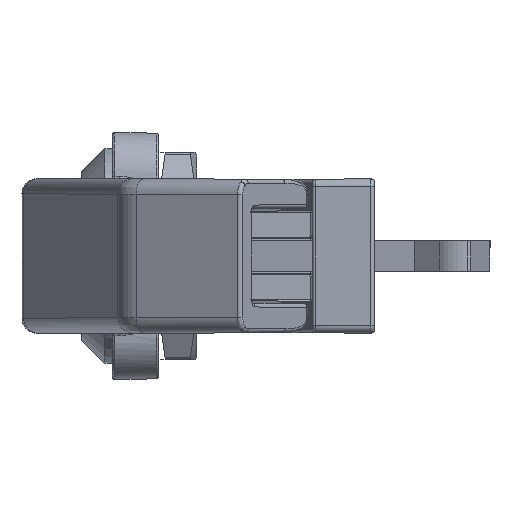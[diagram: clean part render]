
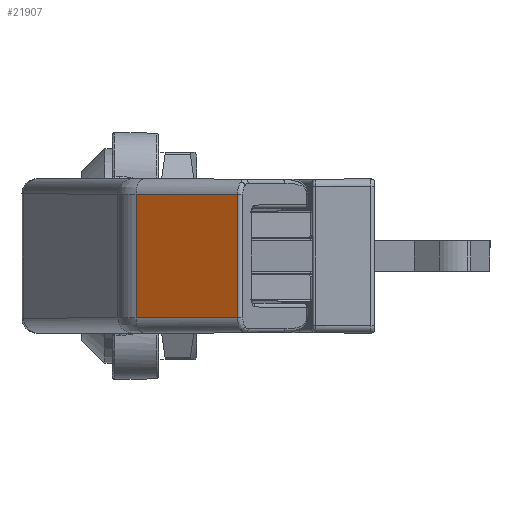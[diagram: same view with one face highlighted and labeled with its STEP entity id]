
A CAD part, left-side view. The second image highlights one B-rep face of the part: STEP entity #21907.
In plain terms, the highlighted planar face has unit normal (-0.862, 0.508, 0).
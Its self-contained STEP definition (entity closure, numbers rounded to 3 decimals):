
#340 = ORIENTED_EDGE ( 'NONE', *, *, #24650, .T. ) ;
#609 = AXIS2_PLACEMENT_3D ( 'NONE', #17525, #3361, #29434 ) ;
#712 = CARTESIAN_POINT ( 'NONE',  ( 26.625, 17.905, 8.022 ) ) ;
#756 = FACE_OUTER_BOUND ( 'NONE', #27140, .T. ) ;
#1463 = LINE ( 'NONE', #12823, #36661 ) ;
#2162 = DIRECTION ( 'NONE',  ( 0., 0., -1. ) ) ;
#2248 = CARTESIAN_POINT ( 'NONE',  ( 34.421, 31.131, 8.057 ) ) ;
#3187 = VECTOR ( 'NONE', #2162, 1000. ) ;
#3361 = DIRECTION ( 'NONE',  ( -0.861, 0.508, 0. ) ) ;
#4835 = CARTESIAN_POINT ( 'NONE',  ( 26.625, 17.905, -8.022 ) ) ;
#5482 = LINE ( 'NONE', #19278, #3187 ) ;
#7161 = EDGE_CURVE ( 'NONE', #27760, #18225, #1463, .T. ) ;
#10813 = LINE ( 'NONE', #4835, #26851 ) ;
#11259 = VERTEX_POINT ( 'NONE', #32285 ) ;
#12108 = PLANE ( 'NONE',  #609 ) ;
#12751 = DIRECTION ( 'NONE',  ( 0.508, 0.861, -0.002 ) ) ;
#12823 = CARTESIAN_POINT ( 'NONE',  ( 26.625, 17.905, 8.022 ) ) ;
#14354 = EDGE_CURVE ( 'NONE', #17297, #11259, #14988, .T. ) ;
#14988 = LINE ( 'NONE', #32680, #30798 ) ;
#17297 = VERTEX_POINT ( 'NONE', #32883 ) ;
#17525 = CARTESIAN_POINT ( 'NONE',  ( 35.549, 33.046, -10.1 ) ) ;
#18225 = VERTEX_POINT ( 'NONE', #2248 ) ;
#19278 = CARTESIAN_POINT ( 'NONE',  ( 34.421, 31.132, -10.1 ) ) ;
#20462 = DIRECTION ( 'NONE',  ( 0.508, 0.861, 0.002 ) ) ;
#21907 = ADVANCED_FACE ( 'NONE', ( #756 ), #12108, .T. ) ;
#24231 = DIRECTION ( 'NONE',  ( 0., 0., 1. ) ) ;
#24650 = EDGE_CURVE ( 'NONE', #17297, #27760, #10813, .T. ) ;
#26851 = VECTOR ( 'NONE', #24231, 1000. ) ;
#27140 = EDGE_LOOP ( 'NONE', ( #28247, #340, #34026, #34433 ) ) ;
#27760 = VERTEX_POINT ( 'NONE', #712 ) ;
#28247 = ORIENTED_EDGE ( 'NONE', *, *, #14354, .F. ) ;
#29434 = DIRECTION ( 'NONE',  ( 0.508, 0.861, 0. ) ) ;
#30798 = VECTOR ( 'NONE', #12751, 1000. ) ;
#32285 = CARTESIAN_POINT ( 'NONE',  ( 34.421, 31.131, -8.057 ) ) ;
#32680 = CARTESIAN_POINT ( 'NONE',  ( 26.625, 17.905, -8.022 ) ) ;
#32883 = CARTESIAN_POINT ( 'NONE',  ( 26.625, 17.905, -8.022 ) ) ;
#34026 = ORIENTED_EDGE ( 'NONE', *, *, #7161, .T. ) ;
#34433 = ORIENTED_EDGE ( 'NONE', *, *, #36354, .T. ) ;
#36354 = EDGE_CURVE ( 'NONE', #18225, #11259, #5482, .T. ) ;
#36661 = VECTOR ( 'NONE', #20462, 1000. ) ;
